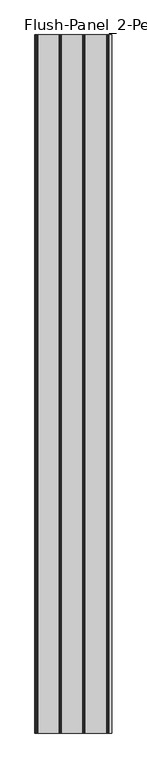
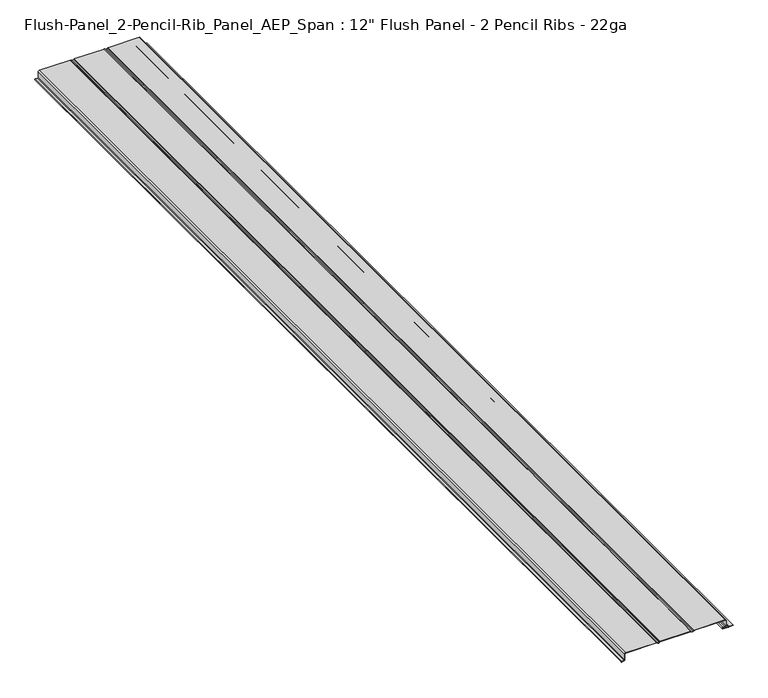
"""IFC4 building model written with IfcOpenShell, lengths in millimetres: proxy geometry."""

from ifc_helpers import new_model, si_unit, point, frame, frame_2d, origin, place, context, project, spatial, polyline, circle_curve, trimmed, segment, composite_curve, outline, extrude, source, transform, mapped, element, save


def proxy_1fc6f8f9(model_context):
    return source(origin(), model_context, "Body", "SweptSolid", [
        extrude(outline(composite_curve([segment(trimmed(circle_curve(frame_2d((1.3208, 186.1001982)), 1.524), [point((-0.2032, 186.1001982))], [point((2.8448, 186.1001982))], True, "CARTESIAN"), True, "CONTINUOUS"), segment(polyline([(2.8448, 186.1001982), (2.8448, 193.1867982)]), True, "CONTINUOUS"), segment(trimmed(circle_curve(frame_2d((5.5372, 193.1867982)), 2.6924), [point((2.8448, 193.1867982))], [point((5.5372, 195.8791982))], False, "CARTESIAN"), True, "CONTINUOUS"), segment(polyline([(5.5372, 195.8791982), (21.9964, 195.8791982)]), True, "CONTINUOUS"), segment(trimmed(circle_curve(frame_2d((21.9964, 193.1867982)), 2.6924), [point((21.9964, 195.8791982))], [point((24.6888, 193.1867982))], False, "CARTESIAN"), True, "CONTINUOUS"), segment(polyline([(24.6888, 193.1867982), (24.6888, 100.0068345)]), True, "CONTINUOUS"), segment(trimmed(circle_curve(frame_2d((22.1234, 100.0068345)), 2.5654), [point((24.6888, 100.0068345))], [point((24.2248527, 98.5353815))], False, "CARTESIAN"), True, "CONTINUOUS"), segment(polyline([(24.2248527, 98.5353815), (22.5197923, 96.1003029)]), True, "CONTINUOUS"), segment(trimmed(circle_curve(frame_2d((25.1206, 94.2791978)), 3.175), [point((22.5197923, 96.1003029))], [point((22.5197923, 92.4580926))], True, "CARTESIAN"), True, "CONTINUOUS"), segment(polyline([(22.5197923, 92.4580926), (24.2248527, 90.023014)]), True, "CONTINUOUS"), segment(trimmed(circle_curve(frame_2d((22.1234, 88.551561)), 2.5654), [point((24.2248527, 90.023014))], [point((24.6888, 88.551561))], False, "CARTESIAN"), True, "CONTINUOUS"), segment(polyline([(24.6888, 88.551561), (24.6888, -1.5931646)]), True, "CONTINUOUS"), segment(trimmed(circle_curve(frame_2d((22.1234, -1.5931646)), 2.5654), [point((24.6888, -1.5931646))], [point((24.2248527, -3.0646176))], False, "CARTESIAN"), True, "CONTINUOUS"), segment(polyline([(24.2248527, -3.0646176), (22.5197923, -5.4996961)]), True, "CONTINUOUS"), segment(trimmed(circle_curve(frame_2d((25.1206, -7.3208013)), 3.175), [point((22.5197923, -5.4996961))], [point((22.5197923, -9.1419065))], True, "CARTESIAN"), True, "CONTINUOUS"), segment(polyline([(22.5197923, -9.1419065), (24.2248527, -11.5769851)]), True, "CONTINUOUS"), segment(trimmed(circle_curve(frame_2d((22.1234, -13.048438)), 2.5654), [point((24.2248527, -11.5769851))], [point((24.6888, -13.048438))], False, "CARTESIAN"), True, "CONTINUOUS"), segment(polyline([(24.6888, -13.048438), (24.6888, -106.2284018)]), True, "CONTINUOUS"), segment(trimmed(circle_curve(frame_2d((21.9964, -106.2284018)), 2.6924), [point((24.6888, -106.2284018))], [point((21.9964, -108.9208018))], False, "CARTESIAN"), True, "CONTINUOUS"), segment(polyline([(21.9964, -108.9208018), (3.9624, -108.9208018)]), True, "CONTINUOUS"), segment(trimmed(circle_curve(frame_2d((3.9624, -110.6480018)), 1.7272), [point((3.9624, -108.9208018))], [point((2.2352, -110.6480018))], True, "CARTESIAN"), True, "CONTINUOUS"), segment(polyline([(2.2352, -110.6480018), (2.2352, -118.4966018)]), True, "CONTINUOUS"), segment(trimmed(circle_curve(frame_2d((1.1176, -118.4966018)), 1.1176), [point((2.2352, -118.4966018))], [point((0.0, -118.4966018))], False, "CARTESIAN"), True, "CONTINUOUS"), segment(polyline([(0.0, -118.4966018), (0.0, -112.7562018), (0.8364409, -112.7562018), (0.7250979, -118.4023504)]), True, "CONTINUOUS"), segment(trimmed(circle_curve(frame_2d((1.1132676, -118.4023504)), 0.3881697), [point((0.7250979, -118.4023504))], [point((1.5014373, -118.4023504))], True, "CARTESIAN"), True, "CONTINUOUS"), segment(polyline([(1.5014373, -118.4023504), (1.5014373, -110.6884931)]), True, "CONTINUOUS"), segment(trimmed(circle_curve(frame_2d((4.0158886, -110.6884931)), 2.5144513), [point((1.5014373, -110.6884931))], [point((4.0158886, -108.1740418))], False, "CARTESIAN"), True, "CONTINUOUS"), segment(polyline([(4.0158886, -108.1740418), (22.041765, -108.1740418)]), True, "CONTINUOUS"), segment(trimmed(circle_curve(frame_2d((22.041765, -106.2737668)), 1.900275), [point((22.041765, -108.1740418))], [point((23.94204, -106.2737668))], True, "CARTESIAN"), True, "CONTINUOUS"), segment(polyline([(23.94204, -106.2737668), (23.94204, -13.048438)]), True, "CONTINUOUS"), segment(trimmed(circle_curve(frame_2d((22.0711713, -13.048438)), 1.8708687), [point((23.94204, -13.048438))], [point((23.6036972, -11.9753518))], True, "CARTESIAN"), True, "CONTINUOUS"), segment(polyline([(23.6036972, -11.9753518), (21.8986368, -9.5402732)]), True, "CONTINUOUS"), segment(trimmed(circle_curve(frame_2d((25.0683712, -7.3208013)), 3.8695312), [point((21.8986368, -9.5402732))], [point((21.8986368, -5.1013294))], False, "CARTESIAN"), True, "CONTINUOUS"), segment(polyline([(21.8986368, -5.1013294), (23.6036972, -2.6662508)]), True, "CONTINUOUS"), segment(trimmed(circle_curve(frame_2d((22.0711713, -1.5931646)), 1.8708687), [point((23.6036972, -2.6662508))], [point((23.94204, -1.5931646))], True, "CARTESIAN"), True, "CONTINUOUS"), segment(polyline([(23.94204, -1.5931646), (23.94204, 88.551561)]), True, "CONTINUOUS"), segment(trimmed(circle_curve(frame_2d((22.0711713, 88.551561)), 1.8708687), [point((23.94204, 88.551561))], [point((23.6036972, 89.6246473))], True, "CARTESIAN"), True, "CONTINUOUS"), segment(polyline([(23.6036972, 89.6246473), (21.8986368, 92.0597258)]), True, "CONTINUOUS"), segment(trimmed(circle_curve(frame_2d((25.0683712, 94.2791978)), 3.8695312), [point((21.8986368, 92.0597258))], [point((21.8986368, 96.4986697))], False, "CARTESIAN"), True, "CONTINUOUS"), segment(polyline([(21.8986368, 96.4986697), (23.6036972, 98.9337483)]), True, "CONTINUOUS"), segment(trimmed(circle_curve(frame_2d((22.0711713, 100.0068345)), 1.8708687), [point((23.6036972, 98.9337483))], [point((23.94204, 100.0068345))], True, "CARTESIAN"), True, "CONTINUOUS"), segment(polyline([(23.94204, 100.0068345), (23.94204, 193.2333808)]), True, "CONTINUOUS"), segment(trimmed(circle_curve(frame_2d((22.0429826, 193.2333808)), 1.8990574), [point((23.94204, 193.2333808))], [point((22.0429826, 195.1324382))], True, "CARTESIAN"), True, "CONTINUOUS"), segment(polyline([(22.0429826, 195.1324382), (5.4903166, 195.1324382)]), True, "CONTINUOUS"), segment(trimmed(circle_curve(frame_2d((5.4903166, 193.2336816)), 1.8987566), [point((5.4903166, 195.1324382))], [point((3.59156, 193.2336816))], True, "CARTESIAN"), True, "CONTINUOUS"), segment(polyline([(3.59156, 193.2336816), (3.59156, 186.1001982)]), True, "CONTINUOUS"), segment(trimmed(circle_curve(frame_2d((1.3208, 186.1001982)), 2.27076), [point((3.59156, 186.1001982))], [point((-0.94996, 186.1001982))], False, "CARTESIAN"), True, "CONTINUOUS"), segment(polyline([(-0.94996, 186.1001982), (-0.94996, 201.3052025), (-1.5971248, 202.693052)]), True, "CONTINUOUS"), segment(trimmed(circle_curve(frame_2d((-0.03175, 203.4229982)), 1.7272), [point((-1.5971248, 202.693052))], [point((-1.5971248, 204.1529445))], False, "CARTESIAN"), True, "CONTINUOUS"), segment(polyline([(-1.5971248, 204.1529445), (-0.94996, 205.5407939), (-0.94996, 216.3769982), (-0.0986239, 216.3769982), (-0.2032, 205.2640534), (-0.877743, 203.8174912)]), True, "CONTINUOUS"), segment(trimmed(circle_curve(frame_2d((-0.03175, 203.4229982)), 0.93345), [point((-0.877743, 203.8174912))], [point((-0.877743, 203.0285052))], True, "CARTESIAN"), True, "CONTINUOUS"), segment(polyline([(-0.877743, 203.0285052), (-0.2032, 201.5819431), (-0.2032, 186.1001982)]), True, "CONTINUOUS")], self_intersect=False)), frame((0.0, -3048.0, 0.0), z_axis=(0.0, 1.0, 0.0), x_axis=(0.0, 0.0, 1.0)), (0.0, 0.0, 1.0), 3048.0),
    ])


if __name__ == "__main__":
    model = new_model("IFC4")
    model_context = context("Model", 3, world=origin())
    ifc_project = project(units=[si_unit("LENGTHUNIT", "METRE", prefix="MILLI")], contexts=[model_context])
    site = spatial("IfcSite", under=ifc_project)
    building = spatial("IfcBuilding", under=site)
    placement = place(None, origin())
    proxy_shape = proxy_1fc6f8f9(model_context)
    element("IfcBuildingElementProxy", 1, Name="Flush-Panel_2-Pencil-Rib_Panel_AEP_Span : 12\" Flush Panel - 2 Pencil Ribs - 22ga", ObjectType="Flush-Panel_2-Pencil-Rib_Panel_AEP_Span : 12\" Flush Panel - 2 Pencil Ribs - 22ga", at=placement, inside=building, context=model_context, shape_type="MappedRepresentation", body=[
        mapped(proxy_shape, transform((0.0, 0.0, 0.0), x_axis=(1.0, 0.0, 0.0), y_axis=(0.0, 1.0, 0.0), z_axis=(0.0, 0.0, 1.0))),
    ])
    save(model, "model.ifc")
